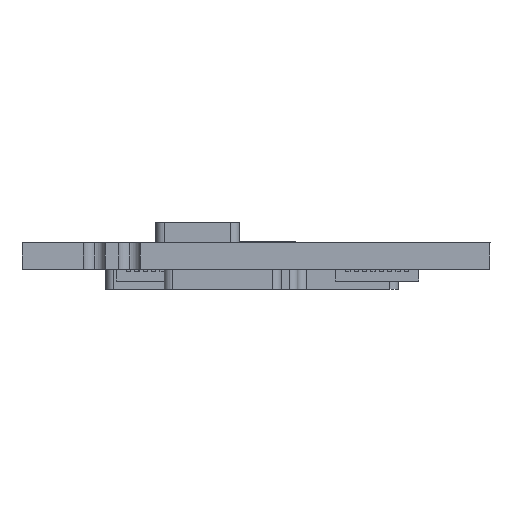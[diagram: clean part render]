
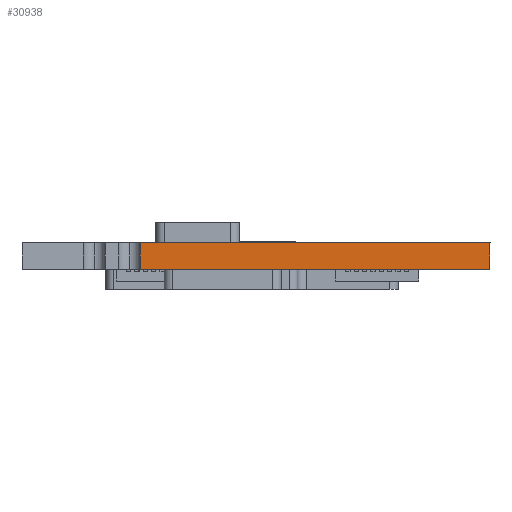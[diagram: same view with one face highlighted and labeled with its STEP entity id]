
A CAD part, left-side view. The second image highlights one B-rep face of the part: STEP entity #30938.
In plain terms, the highlighted planar face has unit normal (-1, 0, 0).
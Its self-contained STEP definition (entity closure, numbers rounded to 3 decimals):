
#1334 = CARTESIAN_POINT ( 'NONE',  ( -22.55, -4.075, -2.302 ) ) ;
#1731 = CARTESIAN_POINT ( 'NONE',  ( -22.55, -4.075, -2.302 ) ) ;
#1892 = CARTESIAN_POINT ( 'NONE',  ( -22.55, 0., -0.7 ) ) ;
#3823 = EDGE_CURVE ( 'NONE', #44475, #85178, #64178, .T. ) ;
#5622 = CARTESIAN_POINT ( 'NONE',  ( -22.55, -4.075, -0.7 ) ) ;
#8236 = DIRECTION ( 'NONE',  ( 0., 1., 0. ) ) ;
#10038 = VECTOR ( 'NONE', #8236, 1000. ) ;
#10508 = VECTOR ( 'NONE', #17926, 1000. ) ;
#14678 = DIRECTION ( 'NONE',  ( -1., 0., 0. ) ) ;
#17926 = DIRECTION ( 'NONE',  ( 0., 0., 1. ) ) ;
#17975 = EDGE_LOOP ( 'NONE', ( #71734, #49242, #52516, #27734 ) ) ;
#21779 = DIRECTION ( 'NONE',  ( 0., 0., 1. ) ) ;
#24622 = CARTESIAN_POINT ( 'NONE',  ( -22.55, 16.848, -2.302 ) ) ;
#26792 = CARTESIAN_POINT ( 'NONE',  ( -22.55, 16.848, -2.302 ) ) ;
#27547 = EDGE_CURVE ( 'NONE', #84482, #68971, #56104, .T. ) ;
#27724 = AXIS2_PLACEMENT_3D ( 'NONE', #1334, #14678, #21779 ) ;
#27734 = ORIENTED_EDGE ( 'NONE', *, *, #3823, .F. ) ;
#30938 = ADVANCED_FACE ( 'NONE', ( #75997 ), #70652, .T. ) ;
#40812 = DIRECTION ( 'NONE',  ( 0., 0., 1. ) ) ;
#41263 = LINE ( 'NONE', #1731, #64147 ) ;
#42125 = CARTESIAN_POINT ( 'NONE',  ( -22.55, 16.848, -0.7 ) ) ;
#44475 = VERTEX_POINT ( 'NONE', #56100 ) ;
#45766 = VECTOR ( 'NONE', #68130, 1000. ) ;
#49242 = ORIENTED_EDGE ( 'NONE', *, *, #27547, .F. ) ;
#52516 = ORIENTED_EDGE ( 'NONE', *, *, #70727, .F. ) ;
#56100 = CARTESIAN_POINT ( 'NONE',  ( -22.55, -4.075, -2.302 ) ) ;
#56104 = LINE ( 'NONE', #1892, #45766 ) ;
#64147 = VECTOR ( 'NONE', #40812, 1000. ) ;
#64178 = LINE ( 'NONE', #77941, #10038 ) ;
#68130 = DIRECTION ( 'NONE',  ( 0., -1., 0. ) ) ;
#68639 = EDGE_CURVE ( 'NONE', #44475, #68971, #41263, .T. ) ;
#68971 = VERTEX_POINT ( 'NONE', #5622 ) ;
#70652 = PLANE ( 'NONE',  #27724 ) ;
#70727 = EDGE_CURVE ( 'NONE', #85178, #84482, #72636, .T. ) ;
#71734 = ORIENTED_EDGE ( 'NONE', *, *, #68639, .T. ) ;
#72636 = LINE ( 'NONE', #24622, #10508 ) ;
#75997 = FACE_OUTER_BOUND ( 'NONE', #17975, .T. ) ;
#77941 = CARTESIAN_POINT ( 'NONE',  ( -22.55, -4.075, -2.302 ) ) ;
#84482 = VERTEX_POINT ( 'NONE', #42125 ) ;
#85178 = VERTEX_POINT ( 'NONE', #26792 ) ;
